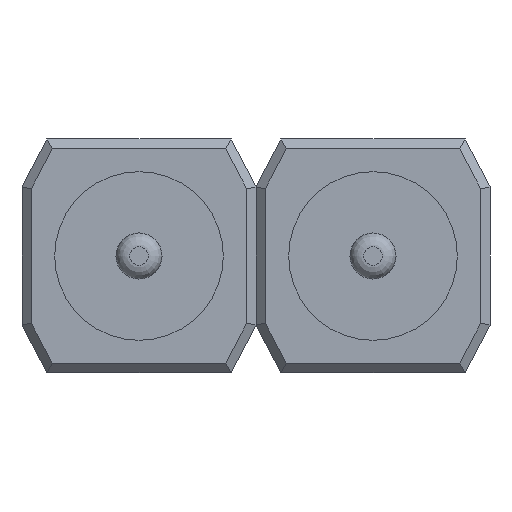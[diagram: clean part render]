
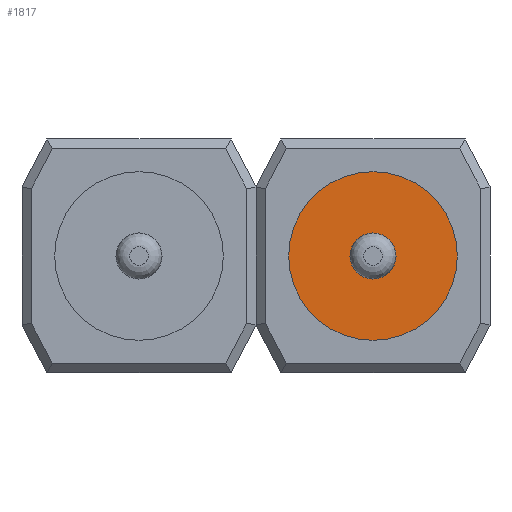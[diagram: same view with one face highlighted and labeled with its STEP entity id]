
A CAD part, left-side view. The second image highlights one B-rep face of the part: STEP entity #1817.
In plain terms, the highlighted planar face has unit normal (-1, 0, 0).
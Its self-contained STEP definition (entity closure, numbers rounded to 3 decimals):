
#1667 = VERTEX_POINT('',#1668);
#1668 = CARTESIAN_POINT('',(0.,0.25,0.)
  );
#1677 = CYLINDRICAL_SURFACE('',#1678,0.25);
#1678 = AXIS2_PLACEMENT_3D('',#1679,#1680,#1681);
#1679 = CARTESIAN_POINT('',(0.,0.,
    0.));
#1680 = DIRECTION('',(1.,0.,0.));
#1681 = DIRECTION('',(0.,1.,0.));
#1731 = EDGE_CURVE('',#1667,#1667,#1732,.T.);
#1732 = SURFACE_CURVE('',#1733,(#1738,#1745),.PCURVE_S1.);
#1733 = CIRCLE('',#1734,0.25);
#1734 = AXIS2_PLACEMENT_3D('',#1735,#1736,#1737);
#1735 = CARTESIAN_POINT('',(0.,0.,
    0.));
#1736 = DIRECTION('',(-1.,0.,0.));
#1737 = DIRECTION('',(0.,1.,0.));
#1738 = PCURVE('',#1677,#1739);
#1739 = DEFINITIONAL_REPRESENTATION('',(#1740),#1744);
#1740 = LINE('',#1741,#1742);
#1741 = CARTESIAN_POINT('',(-0.,0.));
#1742 = VECTOR('',#1743,1.);
#1743 = DIRECTION('',(-1.,0.));
#1744 = ( GEOMETRIC_REPRESENTATION_CONTEXT(2) 
PARAMETRIC_REPRESENTATION_CONTEXT() REPRESENTATION_CONTEXT('2D SPACE',''
  ) );
#1745 = PCURVE('',#1746,#1751);
#1746 = PLANE('',#1747);
#1747 = AXIS2_PLACEMENT_3D('',#1748,#1749,#1750);
#1748 = CARTESIAN_POINT('',(0.,0.,
    0.));
#1749 = DIRECTION('',(1.,0.,0.));
#1750 = DIRECTION('',(0.,0.,1.));
#1751 = DEFINITIONAL_REPRESENTATION('',(#1752),#1760);
#1752 = ( BOUNDED_CURVE() B_SPLINE_CURVE(2,(#1753,#1754,#1755,#1756,
#1757,#1758,#1759),.UNSPECIFIED.,.T.,.F.) B_SPLINE_CURVE_WITH_KNOTS((1,2
    ,2,2,2,1),(-2.094,0.,2.094,4.189,
6.283,8.378),.UNSPECIFIED.) CURVE() 
GEOMETRIC_REPRESENTATION_ITEM() RATIONAL_B_SPLINE_CURVE((1.,0.5,1.,0.5,
1.,0.5,1.)) REPRESENTATION_ITEM('') );
#1753 = CARTESIAN_POINT('',(0.,-0.25));
#1754 = CARTESIAN_POINT('',(-0.433,-0.25));
#1755 = CARTESIAN_POINT('',(-0.217,0.125));
#1756 = CARTESIAN_POINT('',(0.,0.5));
#1757 = CARTESIAN_POINT('',(0.217,0.125));
#1758 = CARTESIAN_POINT('',(0.433,-0.25));
#1759 = CARTESIAN_POINT('',(0.,-0.25));
#1760 = ( GEOMETRIC_REPRESENTATION_CONTEXT(2) 
PARAMETRIC_REPRESENTATION_CONTEXT() REPRESENTATION_CONTEXT('2D SPACE',''
  ) );
#1817 = ADVANCED_FACE('',(#1818,#1849),#1746,.F.);
#1818 = FACE_BOUND('',#1819,.F.);
#1819 = EDGE_LOOP('',(#1820));
#1820 = ORIENTED_EDGE('',*,*,#1821,.T.);
#1821 = EDGE_CURVE('',#1822,#1822,#1824,.T.);
#1822 = VERTEX_POINT('',#1823);
#1823 = CARTESIAN_POINT('',(0.,0.915,0.
    ));
#1824 = SURFACE_CURVE('',#1825,(#1830,#1837),.PCURVE_S1.);
#1825 = CIRCLE('',#1826,0.915);
#1826 = AXIS2_PLACEMENT_3D('',#1827,#1828,#1829);
#1827 = CARTESIAN_POINT('',(0.,0.,0.));
#1828 = DIRECTION('',(1.,0.,0.));
#1829 = DIRECTION('',(0.,1.,0.));
#1830 = PCURVE('',#1746,#1831);
#1831 = DEFINITIONAL_REPRESENTATION('',(#1832),#1836);
#1832 = CIRCLE('',#1833,0.915);
#1833 = AXIS2_PLACEMENT_2D('',#1834,#1835);
#1834 = CARTESIAN_POINT('',(0.,0.));
#1835 = DIRECTION('',(0.,-1.));
#1836 = ( GEOMETRIC_REPRESENTATION_CONTEXT(2) 
PARAMETRIC_REPRESENTATION_CONTEXT() REPRESENTATION_CONTEXT('2D SPACE',''
  ) );
#1837 = PCURVE('',#1838,#1843);
#1838 = CYLINDRICAL_SURFACE('',#1839,0.915);
#1839 = AXIS2_PLACEMENT_3D('',#1840,#1841,#1842);
#1840 = CARTESIAN_POINT('',(0.,0.,0.));
#1841 = DIRECTION('',(-1.,0.,0.));
#1842 = DIRECTION('',(0.,1.,0.));
#1843 = DEFINITIONAL_REPRESENTATION('',(#1844),#1848);
#1844 = LINE('',#1845,#1846);
#1845 = CARTESIAN_POINT('',(-0.,0.));
#1846 = VECTOR('',#1847,1.);
#1847 = DIRECTION('',(-1.,0.));
#1848 = ( GEOMETRIC_REPRESENTATION_CONTEXT(2) 
PARAMETRIC_REPRESENTATION_CONTEXT() REPRESENTATION_CONTEXT('2D SPACE',''
  ) );
#1849 = FACE_BOUND('',#1850,.F.);
#1850 = EDGE_LOOP('',(#1851));
#1851 = ORIENTED_EDGE('',*,*,#1731,.T.);
